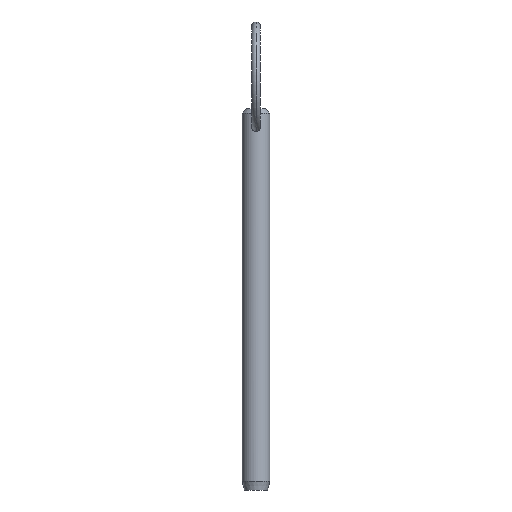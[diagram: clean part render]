
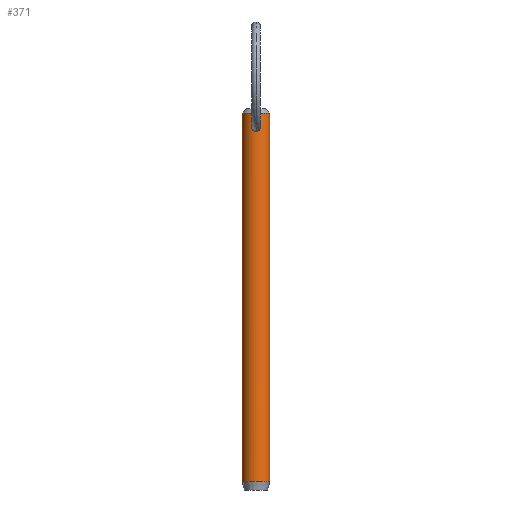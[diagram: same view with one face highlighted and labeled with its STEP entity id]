
A CAD part, front view. The second image highlights one B-rep face of the part: STEP entity #371.
In plain terms, the highlighted cylindrical face has radius 3.175 mm (diameter 6.35 mm), a partial arc.
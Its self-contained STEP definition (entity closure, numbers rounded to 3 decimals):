
#1 = VERTEX_POINT ( 'NONE', #393 ) ;
#3 = CARTESIAN_POINT ( 'NONE',  ( -0.815, -3.07, 74.495 ) ) ;
#7 = CARTESIAN_POINT ( 'NONE',  ( -0.615, -3.116, 75.953 ) ) ;
#9 = VERTEX_POINT ( 'NONE', #83 ) ;
#15 = CARTESIAN_POINT ( 'NONE',  ( -0.269, -3.166, 74.129 ) ) ;
#19 = ORIENTED_EDGE ( 'NONE', *, *, #200, .T. ) ;
#25 = EDGE_CURVE ( 'NONE', #377, #9, #137, .T. ) ;
#28 = DIRECTION ( 'NONE',  ( 0., 0., -1. ) ) ;
#36 = CARTESIAN_POINT ( 'NONE',  ( 0.134, -3.175, 76.182 ) ) ;
#42 = VECTOR ( 'NONE', #282, 1000. ) ;
#44 = CARTESIAN_POINT ( 'NONE',  ( 0., 0., 73.7 ) ) ;
#47 = CARTESIAN_POINT ( 'NONE',  ( -1.004, -3.012, 74.995 ) ) ;
#64 = DIRECTION ( 'NONE',  ( 0., 0., 1. ) ) ;
#72 = CARTESIAN_POINT ( 'NONE',  ( -0.134, -3.175, 74.103 ) ) ;
#83 = CARTESIAN_POINT ( 'NONE',  ( -3.175, 0., -5.92 ) ) ;
#86 = CYLINDRICAL_SURFACE ( 'NONE', #223, 3.175 ) ;
#101 = EDGE_CURVE ( 'NONE', #212, #377, #182, .T. ) ;
#108 = CARTESIAN_POINT ( 'NONE',  ( 0.982, -3.02, 74.858 ) ) ;
#110 = CARTESIAN_POINT ( 'NONE',  ( -0.991, -3.016, 75.396 ) ) ;
#112 = CARTESIAN_POINT ( 'NONE',  ( 0., -3.175, 74.103 ) ) ;
#113 = CARTESIAN_POINT ( 'NONE',  ( 0., -3.175, 76.182 ) ) ;
#117 = CARTESIAN_POINT ( 'NONE',  ( 0.134, -3.175, 74.103 ) ) ;
#118 = CARTESIAN_POINT ( 'NONE',  ( 0.617, -3.116, 75.951 ) ) ;
#128 = FACE_BOUND ( 'NONE', #219, .T. ) ;
#129 = CARTESIAN_POINT ( 'NONE',  ( 0.992, -3.016, 75.394 ) ) ;
#130 = EDGE_CURVE ( 'NONE', #212, #390, #355, .T. ) ;
#137 = LINE ( 'NONE', #320, #177 ) ;
#142 = CARTESIAN_POINT ( 'NONE',  ( 0., 0., -5.92 ) ) ;
#149 = DIRECTION ( 'NONE',  ( -1., 0., 0. ) ) ;
#154 = CARTESIAN_POINT ( 'NONE',  ( -0.508, -3.136, 76.035 ) ) ;
#155 = CARTESIAN_POINT ( 'NONE',  ( 0., -3.175, 74.103 ) ) ;
#156 = CARTESIAN_POINT ( 'NONE',  ( -0.328, -3.159, 76.121 ) ) ;
#168 = EDGE_CURVE ( 'NONE', #9, #390, #358, .T. ) ;
#177 = VECTOR ( 'NONE', #279, 1000. ) ;
#182 = CIRCLE ( 'NONE', #466, 3.175 ) ;
#186 = EDGE_LOOP ( 'NONE', ( #388, #290, #404, #310 ) ) ;
#191 = CARTESIAN_POINT ( 'NONE',  ( 0.888, -3.049, 74.609 ) ) ;
#196 = CARTESIAN_POINT ( 'NONE',  ( -0.133, -3.173, 76.174 ) ) ;
#197 = CARTESIAN_POINT ( 'NONE',  ( 0.628, -3.114, 74.304 ) ) ;
#199 = CARTESIAN_POINT ( 'NONE',  ( -0.882, -3.055, 75.66 ) ) ;
#200 = EDGE_CURVE ( 'NONE', #441, #1, #308, .T. ) ;
#205 = AXIS2_PLACEMENT_3D ( 'NONE', #142, #64, #149 ) ;
#212 = VERTEX_POINT ( 'NONE', #267 ) ;
#219 = EDGE_LOOP ( 'NONE', ( #19, #420 ) ) ;
#222 = CARTESIAN_POINT ( 'NONE',  ( 0., -3.175, 76.182 ) ) ;
#223 = AXIS2_PLACEMENT_3D ( 'NONE', #44, #421, #341 ) ;
#231 = CARTESIAN_POINT ( 'NONE',  ( 0.268, -3.166, 74.129 ) ) ;
#242 = B_SPLINE_CURVE_WITH_KNOTS ( 'NONE', 3,
 ( #155, #72, #15, #346, #457, #3, #375, #419, #47, #110, #199, #7, #154, #156, #317, #196, #464, #113 ),
 .UNSPECIFIED., .F., .F.,
 ( 4, 2, 2, 2, 2, 2, 2, 2, 4 ),
 ( 0.006, 0.006, 0.007, 0.007, 0.008, 0.008, 0.009, 0.009, 0.009 ),
 .UNSPECIFIED. ) ;
#267 = CARTESIAN_POINT ( 'NONE',  ( 3.175, 0., 78.28 ) ) ;
#279 = DIRECTION ( 'NONE',  ( 0., 0., -1. ) ) ;
#282 = DIRECTION ( 'NONE',  ( 0., 0., -1. ) ) ;
#290 = ORIENTED_EDGE ( 'NONE', *, *, #101, .T. ) ;
#308 = B_SPLINE_CURVE_WITH_KNOTS ( 'NONE', 3,
 ( #222, #36, #343, #311, #118, #381, #129, #322, #108, #191, #448, #197, #309, #231, #117, #112 ),
 .UNSPECIFIED., .F., .F.,
 ( 4, 2, 2, 2, 2, 2, 2, 4 ),
 ( 0.003, 0.003, 0.004, 0.004, 0.005, 0.005, 0.006, 0.006 ),
 .UNSPECIFIED. ) ;
#309 = CARTESIAN_POINT ( 'NONE',  ( 0.515, -3.135, 74.23 ) ) ;
#310 = ORIENTED_EDGE ( 'NONE', *, *, #168, .T. ) ;
#311 = CARTESIAN_POINT ( 'NONE',  ( 0.51, -3.136, 76.034 ) ) ;
#315 = CARTESIAN_POINT ( 'NONE',  ( -3.175, 0., 78.28 ) ) ;
#317 = CARTESIAN_POINT ( 'NONE',  ( -0.264, -3.165, 76.144 ) ) ;
#320 = CARTESIAN_POINT ( 'NONE',  ( -3.175, 0., 73.7 ) ) ;
#322 = CARTESIAN_POINT ( 'NONE',  ( 1.004, -3.012, 74.993 ) ) ;
#340 = CARTESIAN_POINT ( 'NONE',  ( 3.175, 0., -5.92 ) ) ;
#341 = DIRECTION ( 'NONE',  ( -1., 0., 0. ) ) ;
#343 = CARTESIAN_POINT ( 'NONE',  ( 0.269, -3.166, 76.15 ) ) ;
#346 = CARTESIAN_POINT ( 'NONE',  ( -0.516, -3.135, 74.231 ) ) ;
#355 = LINE ( 'NONE', #360, #42 ) ;
#358 = CIRCLE ( 'NONE', #205, 3.175 ) ;
#360 = CARTESIAN_POINT ( 'NONE',  ( 3.175, 0., 73.7 ) ) ;
#371 = ADVANCED_FACE ( 'NONE', ( #429, #128 ), #86, .T. ) ;
#375 = CARTESIAN_POINT ( 'NONE',  ( -0.888, -3.049, 74.609 ) ) ;
#377 = VERTEX_POINT ( 'NONE', #315 ) ;
#381 = CARTESIAN_POINT ( 'NONE',  ( 0.884, -3.055, 75.657 ) ) ;
#388 = ORIENTED_EDGE ( 'NONE', *, *, #130, .F. ) ;
#390 = VERTEX_POINT ( 'NONE', #340 ) ;
#393 = CARTESIAN_POINT ( 'NONE',  ( 0., -3.175, 74.103 ) ) ;
#396 = EDGE_CURVE ( 'NONE', #1, #441, #242, .T. ) ;
#404 = ORIENTED_EDGE ( 'NONE', *, *, #25, .T. ) ;
#419 = CARTESIAN_POINT ( 'NONE',  ( -0.983, -3.02, 74.859 ) ) ;
#420 = ORIENTED_EDGE ( 'NONE', *, *, #396, .T. ) ;
#421 = DIRECTION ( 'NONE',  ( 0., 0., -1. ) ) ;
#424 = CARTESIAN_POINT ( 'NONE',  ( 0., -3.175, 76.182 ) ) ;
#429 = FACE_OUTER_BOUND ( 'NONE', #186, .T. ) ;
#432 = DIRECTION ( 'NONE',  ( 1., 0., 0. ) ) ;
#433 = CARTESIAN_POINT ( 'NONE',  ( 0., 0., 78.28 ) ) ;
#441 = VERTEX_POINT ( 'NONE', #424 ) ;
#448 = CARTESIAN_POINT ( 'NONE',  ( 0.815, -3.07, 74.495 ) ) ;
#457 = CARTESIAN_POINT ( 'NONE',  ( -0.629, -3.114, 74.305 ) ) ;
#464 = CARTESIAN_POINT ( 'NONE',  ( -0.067, -3.175, 76.182 ) ) ;
#466 = AXIS2_PLACEMENT_3D ( 'NONE', #433, #28, #432 ) ;
